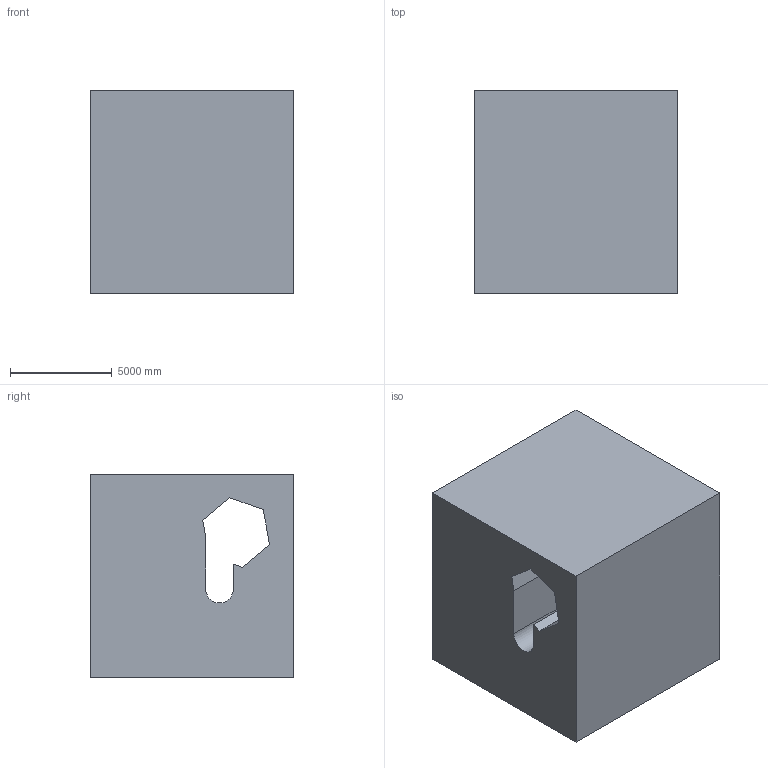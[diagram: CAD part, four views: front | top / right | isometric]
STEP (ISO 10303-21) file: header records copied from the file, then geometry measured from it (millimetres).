
FILE_DESCRIPTION (( 'STEP AP203' ), '1' );
FILE_NAME ('1210.STEP', '2022-08-18T13:12:11', ( 'user' ), ( '' ), 'SwSTEP 2.0', 'SolidWorks 2021', '' );
FILE_SCHEMA (( 'CONFIG_CONTROL_DESIGN' ));
Length unit declared in the file: centimetre
Products named in the file (1): 1210
Bounding box: 10000 x 10000 x 10000 mm (x, y, z)
Volume: 874011517384.1 mm3; surface area: 749231251.3 mm2
Topology: 1 solids, 1 shells, 21 faces, 51 edges, 34 vertices
Faces by surface type: plane 16, cylinder 5
Entity records: 696 total; most frequent: CARTESIAN_POINT 107, DIRECTION 105, ORIENTED_EDGE 102, EDGE_CURVE 51, LINE 41, VECTOR 41, VERTEX_POINT 34, AXIS2_PLACEMENT_3D 32
